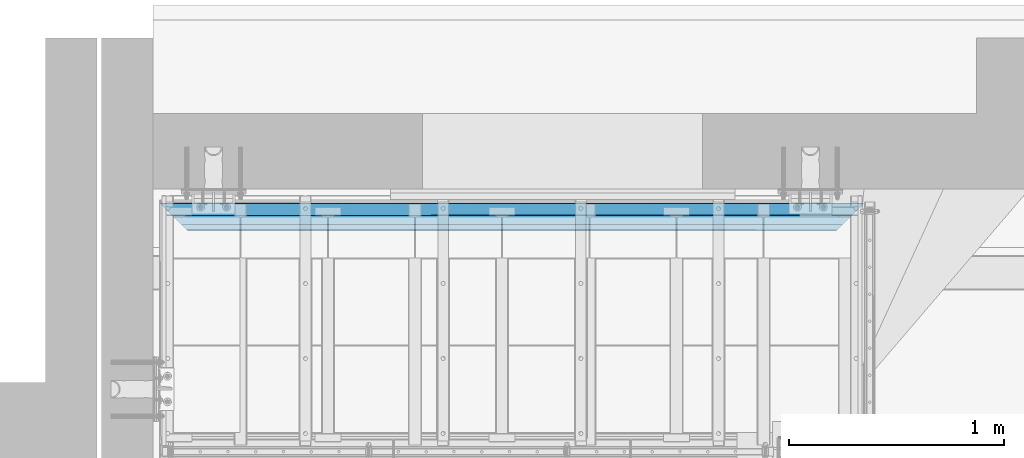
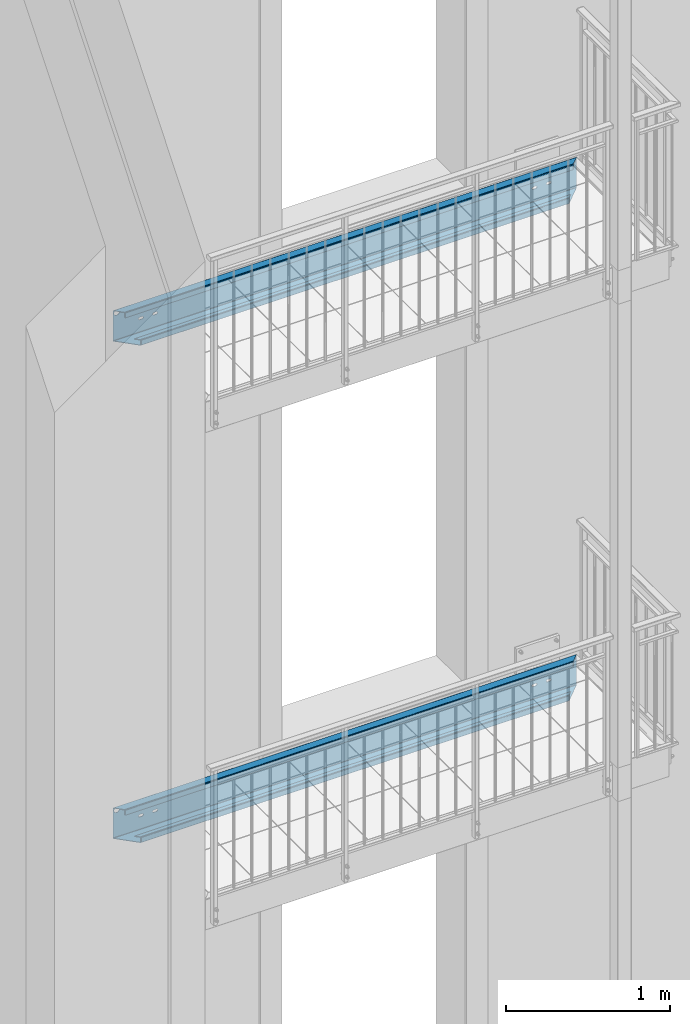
# One storey, part 47 of 162: 2 beams, 24 openings.
"""IFC2X3 building model written with IfcOpenShell, lengths in millimetres."""

import ifcopenshell
import ifcopenshell.guid

model = None  # the IFC model being written
_history = None  # IfcOwnerHistory: only IFC2X3 demands one
_inside = {}  # id of a spatial element -> (the spatial element, [elements in it])
_under = {}  # id of a project, library or spatial element -> (it, [spatial elements below it])
_declared = {}  # id of a project -> (the project, [libraries it declares])
_typed = {}  # id of a type object -> (the type object, [elements of that type])
_made_of = {}  # id of a material, layer set ... -> (it, [elements and type objects made of it])


def new_model(schema):
    """Start an empty IFC model of exactly this schema.

    Asked for "IFC4X3", IfcOpenShell would pick the latest addendum, in which some entities
    have other attributes; the version numbers below select the first issue.
    IFC2X3 requires an IfcOwnerHistory on every rooted entity: one is made here for all.
    """
    global model, _history
    if schema == "IFC4X3":
        model = ifcopenshell.file(schema_version=(4, 3, 0, 0))
    else:
        model = ifcopenshell.file(schema=schema)
    _inside.clear()
    _under.clear()
    _declared.clear()
    _typed.clear()
    _made_of.clear()
    _history = None
    if model.schema == "IFC2X3":
        org = make("IfcOrganization", Name="unknown")
        user = make(
            "IfcPersonAndOrganization",
            ThePerson=make("IfcPerson", FamilyName="unknown"),
            TheOrganization=org,
        )
        app = make(
            "IfcApplication",
            ApplicationDeveloper=org,
            Version="unknown",
            ApplicationFullName="unknown",
            ApplicationIdentifier="unknown",
        )
        _history = make(
            "IfcOwnerHistory",
            OwningUser=user,
            OwningApplication=app,
            ChangeAction="ADDED",
            CreationDate=0,
        )
    return model


def make(cls, **values):
    """One entity of the class cls with the attributes given. An attribute that is None is left unset."""
    return model.create_entity(
        cls, **{name: value for name, value in values.items() if value is not None}
    )


def entity(cls, *values):
    """Any entity or typed value of the class cls, its attributes in the order of the schema. None: left unset."""
    e = model.create_entity(cls)
    for i, value in enumerate(values):
        if value is not None:
            e[i] = value
    return e


def rooted(cls, **values):
    """An entity with a GlobalId (a new one), such as an element, a storey or a relation."""
    return make(cls, GlobalId=ifcopenshell.guid.new(), OwnerHistory=_history, **values)


def si_unit(unit_type, name, prefix=None):
    """IfcSIUnit, for example si_unit("LENGTHUNIT", "METRE", prefix="MILLI")."""
    return make("IfcSIUnit", UnitType=unit_type, Prefix=prefix, Name=name)


def converted_unit(unit_type, name, factor, base, dimensions=None, offset=None):
    """IfcConversionBasedUnit, such as the inch: factor (a typed value) times the base unit."""
    return make(
        "IfcConversionBasedUnit"
        if offset is None
        else "IfcConversionBasedUnitWithOffset",
        ConversionOffset=offset,
        Dimensions=None
        if dimensions is None
        else entity("IfcDimensionalExponents", *dimensions),
        UnitType=unit_type,
        Name=name,
        ConversionFactor=make(
            "IfcMeasureWithUnit", ValueComponent=factor, UnitComponent=base
        ),
    )


def assignment(units):
    """IfcUnitAssignment: the units of a project."""
    return None if units is None else make("IfcUnitAssignment", Units=units)


def point(xyz):
    """IfcCartesianPoint."""
    return None if xyz is None else make("IfcCartesianPoint", Coordinates=xyz)


def direction(xyz):
    """IfcDirection."""
    return None if xyz is None else make("IfcDirection", DirectionRatios=xyz)


def frame(location, z_axis=None, x_axis=None):
    """IfcAxis2Placement3D, a coordinate frame: its origin and axes. An axis left out is left unset."""
    return make(
        "IfcAxis2Placement3D",
        Location=point(location),
        Axis=direction(z_axis),
        RefDirection=direction(x_axis),
    )


def frame_2d(location, x_axis=None):
    """IfcAxis2Placement2D, a coordinate frame in the plane: its origin and x axis."""
    return make(
        "IfcAxis2Placement2D", Location=point(location), RefDirection=direction(x_axis)
    )


def origin():
    """The frame at (0, 0, 0) with its axes left unset."""
    return frame((0.0, 0.0, 0.0))


def origin_with_axes():
    """The frame at (0, 0, 0) with the z axis (0, 0, 1) and the x axis (1, 0, 0) written out."""
    return frame((0.0, 0.0, 0.0), z_axis=(0.0, 0.0, 1.0), x_axis=(1.0, 0.0, 0.0))


def place(relative_to, where):
    """IfcLocalPlacement: puts the frame where relative to a parent placement (None: the world)."""
    return make(
        "IfcLocalPlacement", PlacementRelTo=relative_to, RelativePlacement=where
    )


def context(
    kind, dimensions, precision=None, world=None, true_north=None, identifier=None
):
    """IfcGeometricRepresentationContext, for example the 3D "Model" context."""
    return make(
        "IfcGeometricRepresentationContext",
        ContextIdentifier=identifier,
        ContextType=kind,
        CoordinateSpaceDimension=dimensions,
        Precision=precision,
        WorldCoordinateSystem=world,
        TrueNorth=true_north,
    )


def project(units=None, contexts=None):
    """IfcProject with its units and contexts."""
    return rooted(
        "IfcProject",
        Name="project",
        RepresentationContexts=contexts,
        UnitsInContext=assignment(units),
    )


def spatial(cls, under=None, at=None, **own):
    """A site, building, storey or space (cls), placed at a placement, below another one or the project."""
    s = rooted(cls, ObjectPlacement=at, **own)
    if under is not None:
        _under.setdefault(under.id(), (under, []))[1].append(s)
    return s


def polyline(points):
    """IfcPolyline through the points."""
    return make("IfcPolyline", Points=[point(p) for p in points])


def circle_curve(where, radius):
    """IfcCircle in the frame where."""
    return make("IfcCircle", Position=where, Radius=radius)


def line_curve(start, along, magnitude):
    """IfcLine from a point along a vector."""
    return make(
        "IfcLine",
        Pnt=point(start),
        Dir=make("IfcVector", Orientation=direction(along), Magnitude=magnitude),
    )


def trimmed(basis, trim1, trim2, sense, master):
    """IfcTrimmedCurve: the piece of a basis curve between two trims."""
    return make(
        "IfcTrimmedCurve",
        BasisCurve=basis,
        Trim1=trim1,
        Trim2=trim2,
        SenseAgreement=sense,
        MasterRepresentation=master,
    )


def segment(curve, same_sense, transition):
    """IfcCompositeCurveSegment."""
    return make(
        "IfcCompositeCurveSegment",
        Transition=transition,
        SameSense=same_sense,
        ParentCurve=curve,
    )


def composite_curve(segments, self_intersect=None):
    """IfcCompositeCurve: segments joined end to end."""
    return make("IfcCompositeCurve", Segments=segments, SelfIntersect=self_intersect)


def profile(cls, at=None, kind="AREA", **sizes):
    """A parametric profile (cls). Its sizes go by their IFC names, for example OverallWidth=200.0."""
    return make(cls, ProfileType=kind, Position=at, **sizes)


def circle(**sizes):
    """IfcCircleProfileDef."""
    return profile("IfcCircleProfileDef", **sizes)


def outline(outer, holes=None, kind="AREA"):
    """IfcArbitraryClosedProfileDef: a profile drawn as a closed curve; with holes, ...WithVoids."""
    if holes is None:
        return make("IfcArbitraryClosedProfileDef", ProfileType=kind, OuterCurve=outer)
    return make(
        "IfcArbitraryProfileDefWithVoids",
        ProfileType=kind,
        OuterCurve=outer,
        InnerCurves=holes,
    )


def extrude(swept, where, along, depth):
    """IfcExtrudedAreaSolid: the profile swept, set in the frame where, extruded along a direction by depth."""
    return make(
        "IfcExtrudedAreaSolid",
        SweptArea=swept,
        Position=where,
        ExtrudedDirection=direction(along),
        Depth=depth,
    )


def clip(a, b, op="DIFFERENCE"):
    """IfcBooleanClippingResult: the solid a cut by the half space b."""
    return make(
        "IfcBooleanClippingResult", Operator=op, FirstOperand=a, SecondOperand=b
    )


def halfspace(plane, agree):
    """IfcHalfSpaceSolid: all space on one side of the plane z = 0 of the frame plane."""
    return make(
        "IfcHalfSpaceSolid",
        BaseSurface=make("IfcPlane", Position=plane),
        AgreementFlag=agree,
    )


def shape(context_of_items, identifier, shape_type, items):
    """IfcShapeRepresentation: the items that make up one representation, for example the "Body"."""
    return make(
        "IfcShapeRepresentation",
        ContextOfItems=context_of_items,
        RepresentationIdentifier=identifier,
        RepresentationType=shape_type,
        Items=items,
    )


def material(Name=None, Category=None):
    """IfcMaterial."""
    return make("IfcMaterial", Name=Name, Category=Category)


def made_of(thing, what):
    """Note that an element or type object is made of a material, layer set ...; save() writes the relation."""
    if what is not None:
        _made_of.setdefault(what.id(), (what, []))[1].append(thing)
    return thing


def element(
    cls,
    number,
    at=None,
    inside=None,
    cuts=None,
    type_object=None,
    material=None,
    context=None,
    identifier="Body",
    shape_type=None,
    held_by="IfcProductDefinitionShape",
    body=None,
    shapes=None,
    **own,
):
    """One element of the class cls, such as IfcWall. Its Tag is "e" and its number.

    at: its placement. inside: the storey or other place that contains it. cuts: it is an
    opening in that element (IfcRelVoidsElement). A single representation is given by context,
    identifier, shape_type and body (its items); several are given by shapes. held_by: the class
    of the entity that holds the representations. save() writes the other relations.
    """
    e = rooted(cls, Tag="e%d" % number, ObjectPlacement=at, **own)
    if body is not None:
        shapes = [shape(context, identifier, shape_type, body)]
    if shapes is not None:
        e.Representation = make(held_by, Representations=shapes)
    if inside is not None:
        _inside.setdefault(inside.id(), (inside, []))[1].append(e)
    if cuts is not None:
        rooted(
            "IfcRelVoidsElement", RelatingBuildingElement=cuts, RelatedOpeningElement=e
        )
    if type_object is not None:
        _typed.setdefault(type_object.id(), (type_object, []))[1].append(e)
    return made_of(e, material)


def aggregate(whole, parts):
    """IfcRelAggregates: a whole, such as a stair, and the parts it consists of."""
    return rooted("IfcRelAggregates", RelatingObject=whole, RelatedObjects=parts)


def save(model, path):
    """Write the relations noted so far, then the file.

    IfcRelAggregates (storeys below a building ...), IfcRelContainedInSpatialStructure (elements
    in a storey), IfcRelDefinesByType, IfcRelAssociatesMaterial and IfcRelDeclares: one each for
    every whole, place, type object, material and project.
    """
    for whole, parts in _under.values():
        aggregate(whole, parts)
    for where, things in _inside.values():
        rooted(
            "IfcRelContainedInSpatialStructure",
            RelatedElements=things,
            RelatingStructure=where,
        )
    for kind, things in _typed.values():
        rooted("IfcRelDefinesByType", RelatedObjects=things, RelatingType=kind)
    for what, things in _made_of.values():
        rooted("IfcRelAssociatesMaterial", RelatedObjects=things, RelatingMaterial=what)
    for by, libraries in _declared.values():
        rooted("IfcRelDeclares", RelatingContext=by, RelatedDefinitions=libraries)
    model.write(path)


model = new_model("IFC2X3")

# Units and contexts
model_context = context("Model", 3, precision=1e-09, world=origin_with_axes())
ifc_project = project(units=[si_unit("LENGTHUNIT", "METRE", prefix="MILLI"), si_unit("AREAUNIT", "SQUARE_METRE"), si_unit("VOLUMEUNIT", "CUBIC_METRE"), converted_unit("PLANEANGLEUNIT", "DEGREE", entity("IfcPlaneAngleMeasure", 0.01745329), si_unit("PLANEANGLEUNIT", "RADIAN"), dimensions=[0, 0, 0, 0, 0, 0, 0])], contexts=[model_context])

# Site, building, storey
site_placement = place(None, origin_with_axes())
site = spatial("IfcSite", under=ifc_project, at=site_placement, Name="Hermannstra?e 1a, 60318 Frankfurt", CompositionType="ELEMENT")
building_placement = place(site_placement, origin_with_axes())
building = spatial("IfcBuilding", under=site, at=building_placement, Name="Struktur 1", CompositionType="ELEMENT")
storey_placement = place(building_placement, origin_with_axes())
storey = spatial("IfcBuildingStorey", under=building, at=storey_placement, Name="Default Storey", CompositionType="ELEMENT", Elevation=0.0)

# Beam, openings
ifc_material = material(Name="S355JR")
beam_1_placement = place(None, frame((6200.616602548, 2605.609373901, 7665.0), z_axis=(-1.0, 0.0, 0.0), x_axis=(0.0, -1.0, 0.0)))
beam_1 = element("IfcBeam", 1, at=beam_1_placement, inside=storey, material=ifc_material, Name="-", ObjectType="-", context=model_context, shape_type="Clipping", body=[
    clip(clip(extrude(outline(composite_curve([segment(trimmed(circle_curve(frame_2d((57.999999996, -107.999999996), x_axis=(1.0, 0.0)), 7.000000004), [point((58.0, -115.0))], [point((65.0, -108.0))], True, "CARTESIAN"), True, "CONTINUOUS"), segment(trimmed(line_curve((65.0, -108.0), (0.0, 1.0), 31.0), [point((65.0, -108.0))], [point((65.0, -77.0))], True, "CARTESIAN"), True, "CONTINUOUS"), segment(trimmed(circle_curve(frame_2d((57.999999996, -77.000000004), x_axis=(1.0, 0.0)), 7.000000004), [point((65.0, -77.0))], [point((58.0, -70.0))], True, "CARTESIAN"), True, "CONTINUOUS"), segment(trimmed(line_curve((58.0, -70.0), (-1.0, 0.0), 23.0), [point((58.0, -70.0))], [point((35.0, -70.0))], True, "CARTESIAN"), True, "CONTINUOUS"), segment(trimmed(line_curve((35.0, -70.0), (0.0, -1.0), 4.0), [point((35.0, -70.0))], [point((35.0, -74.0))], True, "CARTESIAN"), True, "CONTINUOUS"), segment(trimmed(line_curve((35.0, -74.0), (1.0, 0.0), 23.0), [point((35.0, -74.0))], [point((58.0, -74.0))], True, "CARTESIAN"), True, "CONTINUOUS"), segment(trimmed(circle_curve(frame_2d((57.999999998, -77.000000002), x_axis=(-1.0, 0.0)), 3.000000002), [point((58.0, -74.0))], [point((61.0, -77.0))], False, "CARTESIAN"), True, "CONTINUOUS"), segment(trimmed(line_curve((61.0, -77.0), (0.0, -1.0), 31.0), [point((61.0, -77.0))], [point((61.0, -108.0))], True, "CARTESIAN"), True, "CONTINUOUS"), segment(trimmed(circle_curve(frame_2d((57.999999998, -107.999999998), x_axis=(-1.0, 0.0)), 3.000000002), [point((61.0, -108.0))], [point((58.0, -111.0))], False, "CARTESIAN"), True, "CONTINUOUS"), segment(trimmed(line_curve((58.0, -111.0), (-1.0, 0.0), 116.0), [point((58.0, -111.0))], [point((-58.0, -111.0))], True, "CARTESIAN"), True, "CONTINUOUS"), segment(trimmed(circle_curve(frame_2d((-57.999999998, -107.999999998), x_axis=(-1.0, 0.0)), 3.000000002), [point((-58.0, -111.0))], [point((-61.0, -108.0))], False, "CARTESIAN"), True, "CONTINUOUS"), segment(trimmed(line_curve((-61.0, -108.0), (0.0, 1.0), 216.0), [point((-61.0, -108.0))], [point((-61.0, 108.0))], True, "CARTESIAN"), True, "CONTINUOUS"), segment(trimmed(circle_curve(frame_2d((-57.999999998, 107.999999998), x_axis=(-1.0, 0.0)), 3.000000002), [point((-61.0, 108.0))], [point((-58.0, 111.0))], False, "CARTESIAN"), True, "CONTINUOUS"), segment(trimmed(line_curve((-58.0, 111.0), (1.0, 0.0), 46.0), [point((-58.0, 111.0))], [point((-12.0, 111.0))], True, "CARTESIAN"), True, "CONTINUOUS"), segment(trimmed(circle_curve(frame_2d((-12.000000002, 107.999999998), x_axis=(-1.0, 0.0)), 3.000000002), [point((-12.0, 111.0))], [point((-9.0, 108.0))], False, "CARTESIAN"), True, "CONTINUOUS"), segment(trimmed(line_curve((-9.0, 108.0), (0.0, -1.0), 33.0), [point((-9.0, 108.0))], [point((-9.0, 75.0))], True, "CARTESIAN"), True, "CONTINUOUS"), segment(trimmed(line_curve((-9.0, 75.0), (1.0, 0.0), 4.0), [point((-9.0, 75.0))], [point((-5.0, 75.0))], True, "CARTESIAN"), True, "CONTINUOUS"), segment(trimmed(line_curve((-5.0, 75.0), (0.0, 1.0), 33.0), [point((-5.0, 75.0))], [point((-5.0, 108.0))], True, "CARTESIAN"), True, "CONTINUOUS"), segment(trimmed(circle_curve(frame_2d((-12.000000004, 107.999999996), x_axis=(1.0, 0.0)), 7.000000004), [point((-5.0, 108.0))], [point((-12.0, 115.0))], True, "CARTESIAN"), True, "CONTINUOUS"), segment(trimmed(line_curve((-12.0, 115.0), (-1.0, 0.0), 46.0), [point((-12.0, 115.0))], [point((-58.0, 115.0))], True, "CARTESIAN"), True, "CONTINUOUS"), segment(trimmed(circle_curve(frame_2d((-57.999999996, 107.999999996), x_axis=(1.0, 0.0)), 7.000000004), [point((-58.0, 115.0))], [point((-65.0, 108.0))], True, "CARTESIAN"), True, "CONTINUOUS"), segment(trimmed(line_curve((-65.0, 108.0), (0.0, -1.0), 216.0), [point((-65.0, 108.0))], [point((-65.0, -108.0))], True, "CARTESIAN"), True, "CONTINUOUS"), segment(trimmed(circle_curve(frame_2d((-57.999999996, -107.999999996), x_axis=(1.0, 0.0)), 7.000000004), [point((-65.0, -108.0))], [point((-58.0, -115.0))], True, "CARTESIAN"), True, "CONTINUOUS"), segment(trimmed(line_curve((-58.0, -115.0), (1.0, 0.0), 116.0), [point((-58.0, -115.0))], [point((58.0, -115.0))], True, "CARTESIAN"), True, "CONTINUOUS")], self_intersect=False)), origin(), (0.0, 0.0, 1.0), 4024.614475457), halfspace(frame((-6.350702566, -7665.0, 3588.656526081), z_axis=(-0.707106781, 0.0, -0.707106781), x_axis=(-0.707106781, 0.0, 0.707106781)), True)), halfspace(frame((4181.958662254, -7665.0, 4624.267314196), z_axis=(-0.707106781, 0.0, 0.707106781), x_axis=(0.707106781, 0.0, 0.707106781)), True)),
])
opening_1_placement = place(beam_1_placement, frame((-66.702560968, 215.1, 374.550741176), z_axis=(0.0, -1.0, 0.0), x_axis=(0.0, 0.0, -1.0)))
element("IfcOpeningElement", 2, at=opening_1_placement, cuts=beam_1, ObjectType="Opening", context=model_context, shape_type="SweptSolid", body=[
    extrude(outline(polyline([(-6.757496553, -8.512020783), (6.757496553, -8.512020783), (6.757496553, 8.512020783), (-6.757496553, 8.512020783), (-6.757496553, -8.512020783)])), origin(), (0.0, 0.0, 1.0), 430.2),
])
opening_2_placement = place(beam_1_placement, frame((-75.214581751, 215.1, 3643.306237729), z_axis=(0.0, 1.0, 0.0), x_axis=(0.0, 0.0, 1.0)))
element("IfcOpeningElement", 3, at=opening_2_placement, cuts=beam_1, ObjectType="Opening", context=model_context, shape_type="SweptSolid", body=[
    extrude(outline(polyline([(0.0, 0.0), (13.514993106, 0.0), (13.514993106, 17.024041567), (0.0, 17.024041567), (0.0, 0.0)])), origin(), (0.0, 0.0, -1.0), 430.2),
])
opening_3_placement = place(beam_1_placement, frame((-60.5, 115.0, 382.310359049), z_axis=(-1.0, 0.0, 0.0), x_axis=(0.0, 0.0, 1.0)))
element("IfcOpeningElement", 4, at=opening_3_placement, cuts=beam_1, ObjectType="Opening", context=model_context, shape_type="SweptSolid", body=[
    extrude(circle(Radius=19.001, at=frame_2d((25.0, -25.0), x_axis=(1.0, 0.0))), origin(), (0.0, 0.0, 1.0), 5.0),
])
opening_4_placement = place(beam_1_placement, frame((-60.5, 90.0, 3636.305116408), z_axis=(1.0, 0.0, 0.0), x_axis=(0.0, 1.0, 0.0)))
element("IfcOpeningElement", 5, at=opening_4_placement, cuts=beam_1, ObjectType="Opening", context=model_context, shape_type="SweptSolid", body=[
    extrude(circle(Radius=19.001, at=frame_2d((0.0, -19.001), x_axis=(1.0, 0.0))), origin(), (0.0, 0.0, -1.0), 5.0),
])
opening_5_placement = place(beam_1_placement, frame((-65.5, 19.999999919, 627.307944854), z_axis=(1.0, 0.0, 0.0), x_axis=(0.0, 0.0, -1.0)))
element("IfcOpeningElement", 6, at=opening_5_placement, cuts=beam_1, ObjectType="Opening", context=model_context, shape_type="SweptSolid", body=[
    extrude(outline(composite_curve([segment(trimmed(line_curve((41.5, 20.999), (1.0, 0.0), 17.0), [point((41.5, 20.999))], [point((58.5, 20.999))], True, "CARTESIAN"), True, "CONTINUOUS"), segment(trimmed(circle_curve(frame_2d((58.5, 30.0), x_axis=(1.0, 0.0)), 9.001), [point((58.5, 20.999))], [point((58.5, 39.001))], True, "CARTESIAN"), True, "CONTINUOUS"), segment(trimmed(line_curve((58.5, 39.001), (-1.0, 0.0), 17.0), [point((58.5, 39.001))], [point((41.5, 39.001))], True, "CARTESIAN"), True, "CONTINUOUS"), segment(trimmed(circle_curve(frame_2d((41.5, 30.0), x_axis=(1.0, 0.0)), 9.001), [point((41.5, 39.001))], [point((41.5, 20.999))], True, "CARTESIAN"), True, "CONTINUOUS")], self_intersect=False)), origin(), (0.0, 0.0, 1.0), 5.0),
])
opening_6_placement = place(beam_1_placement, frame((-65.5, 19.999999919, 627.307944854), z_axis=(1.0, 0.0, 0.0), x_axis=(0.0, 0.0, -1.0)))
element("IfcOpeningElement", 7, at=opening_6_placement, cuts=beam_1, ObjectType="Opening", context=model_context, shape_type="SweptSolid", body=[
    extrude(outline(composite_curve([segment(trimmed(line_curve((-58.5, 20.999), (1.0, 0.0), 17.0), [point((-58.5, 20.999))], [point((-41.5, 20.999))], True, "CARTESIAN"), True, "CONTINUOUS"), segment(trimmed(circle_curve(frame_2d((-41.5, 30.0), x_axis=(1.0, 0.0)), 9.001), [point((-41.5, 20.999))], [point((-41.5, 39.001))], True, "CARTESIAN"), True, "CONTINUOUS"), segment(trimmed(line_curve((-41.5, 39.001), (-1.0, 0.0), 17.0), [point((-41.5, 39.001))], [point((-58.5, 39.001))], True, "CARTESIAN"), True, "CONTINUOUS"), segment(trimmed(circle_curve(frame_2d((-58.5, 30.0), x_axis=(1.0, 0.0)), 9.001), [point((-58.5, 39.001))], [point((-58.5, 20.999))], True, "CARTESIAN"), True, "CONTINUOUS")], self_intersect=False)), origin(), (0.0, 0.0, 1.0), 5.0),
])
opening_7_placement = place(beam_1_placement, frame((-65.5, 19.999999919, 627.307944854), z_axis=(1.0, 0.0, 0.0), x_axis=(0.0, 0.0, -1.0)))
element("IfcOpeningElement", 8, at=opening_7_placement, cuts=beam_1, ObjectType="Opening", context=model_context, shape_type="SweptSolid", body=[
    extrude(outline(composite_curve([segment(trimmed(line_curve((41.5, -39.001), (1.0, 0.0), 17.0), [point((41.5, -39.001))], [point((58.5, -39.001))], True, "CARTESIAN"), True, "CONTINUOUS"), segment(trimmed(circle_curve(frame_2d((58.5, -30.0), x_axis=(1.0, 0.0)), 9.001), [point((58.5, -39.001))], [point((58.5, -20.999))], True, "CARTESIAN"), True, "CONTINUOUS"), segment(trimmed(line_curve((58.5, -20.999), (-1.0, 0.0), 17.0), [point((58.5, -20.999))], [point((41.5, -20.999))], True, "CARTESIAN"), True, "CONTINUOUS"), segment(trimmed(circle_curve(frame_2d((41.5, -30.0), x_axis=(1.0, 0.0)), 9.001), [point((41.5, -20.999))], [point((41.5, -39.001))], True, "CARTESIAN"), True, "CONTINUOUS")], self_intersect=False)), origin(), (0.0, 0.0, 1.0), 5.0),
])
opening_8_placement = place(beam_1_placement, frame((-65.5, 19.999999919, 627.307944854), z_axis=(1.0, 0.0, 0.0), x_axis=(0.0, 0.0, -1.0)))
element("IfcOpeningElement", 9, at=opening_8_placement, cuts=beam_1, ObjectType="Opening", context=model_context, shape_type="SweptSolid", body=[
    extrude(outline(composite_curve([segment(trimmed(line_curve((-58.5, -39.001), (1.0, 0.0), 17.0), [point((-58.5, -39.001))], [point((-41.5, -39.001))], True, "CARTESIAN"), True, "CONTINUOUS"), segment(trimmed(circle_curve(frame_2d((-41.5, -30.0), x_axis=(1.0, 0.0)), 9.001), [point((-41.5, -39.001))], [point((-41.5, -20.999))], True, "CARTESIAN"), True, "CONTINUOUS"), segment(trimmed(line_curve((-41.5, -20.999), (-1.0, 0.0), 17.0), [point((-41.5, -20.999))], [point((-58.5, -20.999))], True, "CARTESIAN"), True, "CONTINUOUS"), segment(trimmed(circle_curve(frame_2d((-58.5, -30.0), x_axis=(1.0, 0.0)), 9.001), [point((-58.5, -20.999))], [point((-58.5, -39.001))], True, "CARTESIAN"), True, "CONTINUOUS")], self_intersect=False)), origin(), (0.0, 0.0, 1.0), 5.0),
])
opening_9_placement = place(beam_1_placement, frame((-65.5, 19.999999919, 3397.307944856), z_axis=(1.0, 0.0, 0.0), x_axis=(0.0, 0.0, -1.0)))
element("IfcOpeningElement", 10, at=opening_9_placement, cuts=beam_1, ObjectType="Opening", context=model_context, shape_type="SweptSolid", body=[
    extrude(outline(composite_curve([segment(trimmed(line_curve((41.5, 20.999), (1.0, 0.0), 17.0), [point((41.5, 20.999))], [point((58.5, 20.999))], True, "CARTESIAN"), True, "CONTINUOUS"), segment(trimmed(circle_curve(frame_2d((58.5, 30.0), x_axis=(1.0, 0.0)), 9.001), [point((58.5, 20.999))], [point((58.5, 39.001))], True, "CARTESIAN"), True, "CONTINUOUS"), segment(trimmed(line_curve((58.5, 39.001), (-1.0, 0.0), 17.0), [point((58.5, 39.001))], [point((41.5, 39.001))], True, "CARTESIAN"), True, "CONTINUOUS"), segment(trimmed(circle_curve(frame_2d((41.5, 30.0), x_axis=(1.0, 0.0)), 9.001), [point((41.5, 39.001))], [point((41.5, 20.999))], True, "CARTESIAN"), True, "CONTINUOUS")], self_intersect=False)), origin(), (0.0, 0.0, 1.0), 5.0),
])
opening_10_placement = place(beam_1_placement, frame((-65.5, 19.999999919, 3397.307944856), z_axis=(1.0, 0.0, 0.0), x_axis=(0.0, 0.0, -1.0)))
element("IfcOpeningElement", 11, at=opening_10_placement, cuts=beam_1, ObjectType="Opening", context=model_context, shape_type="SweptSolid", body=[
    extrude(outline(composite_curve([segment(trimmed(line_curve((-58.5, 20.999), (1.0, 0.0), 17.0), [point((-58.5, 20.999))], [point((-41.5, 20.999))], True, "CARTESIAN"), True, "CONTINUOUS"), segment(trimmed(circle_curve(frame_2d((-41.5, 30.0), x_axis=(1.0, 0.0)), 9.001), [point((-41.5, 20.999))], [point((-41.5, 39.001))], True, "CARTESIAN"), True, "CONTINUOUS"), segment(trimmed(line_curve((-41.5, 39.001), (-1.0, 0.0), 17.0), [point((-41.5, 39.001))], [point((-58.5, 39.001))], True, "CARTESIAN"), True, "CONTINUOUS"), segment(trimmed(circle_curve(frame_2d((-58.5, 30.0), x_axis=(1.0, 0.0)), 9.001), [point((-58.5, 39.001))], [point((-58.5, 20.999))], True, "CARTESIAN"), True, "CONTINUOUS")], self_intersect=False)), origin(), (0.0, 0.0, 1.0), 5.0),
])
opening_11_placement = place(beam_1_placement, frame((-65.5, 19.999999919, 3397.307944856), z_axis=(1.0, 0.0, 0.0), x_axis=(0.0, 0.0, -1.0)))
element("IfcOpeningElement", 12, at=opening_11_placement, cuts=beam_1, ObjectType="Opening", context=model_context, shape_type="SweptSolid", body=[
    extrude(outline(composite_curve([segment(trimmed(line_curve((41.5, -39.001), (1.0, 0.0), 17.0), [point((41.5, -39.001))], [point((58.5, -39.001))], True, "CARTESIAN"), True, "CONTINUOUS"), segment(trimmed(circle_curve(frame_2d((58.5, -30.0), x_axis=(1.0, 0.0)), 9.001), [point((58.5, -39.001))], [point((58.5, -20.999))], True, "CARTESIAN"), True, "CONTINUOUS"), segment(trimmed(line_curve((58.5, -20.999), (-1.0, 0.0), 17.0), [point((58.5, -20.999))], [point((41.5, -20.999))], True, "CARTESIAN"), True, "CONTINUOUS"), segment(trimmed(circle_curve(frame_2d((41.5, -30.0), x_axis=(1.0, 0.0)), 9.001), [point((41.5, -20.999))], [point((41.5, -39.001))], True, "CARTESIAN"), True, "CONTINUOUS")], self_intersect=False)), origin(), (0.0, 0.0, 1.0), 5.0),
])
opening_12_placement = place(beam_1_placement, frame((-65.5, 19.999999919, 3397.307944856), z_axis=(1.0, 0.0, 0.0), x_axis=(0.0, 0.0, -1.0)))
element("IfcOpeningElement", 13, at=opening_12_placement, cuts=beam_1, ObjectType="Opening", context=model_context, shape_type="SweptSolid", body=[
    extrude(outline(composite_curve([segment(trimmed(line_curve((-58.5, -39.001), (1.0, 0.0), 17.0), [point((-58.5, -39.001))], [point((-41.5, -39.001))], True, "CARTESIAN"), True, "CONTINUOUS"), segment(trimmed(circle_curve(frame_2d((-41.5, -30.0), x_axis=(1.0, 0.0)), 9.001), [point((-41.5, -39.001))], [point((-41.5, -20.999))], True, "CARTESIAN"), True, "CONTINUOUS"), segment(trimmed(line_curve((-41.5, -20.999), (-1.0, 0.0), 17.0), [point((-41.5, -20.999))], [point((-58.5, -20.999))], True, "CARTESIAN"), True, "CONTINUOUS"), segment(trimmed(circle_curve(frame_2d((-58.5, -30.0), x_axis=(1.0, 0.0)), 9.001), [point((-58.5, -20.999))], [point((-58.5, -39.001))], True, "CARTESIAN"), True, "CONTINUOUS")], self_intersect=False)), origin(), (0.0, 0.0, 1.0), 5.0),
])

beam_2_placement = place(None, frame((6200.616602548, 2605.609373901, 11364.999), z_axis=(-1.0, 0.0, 0.0), x_axis=(0.0, -1.0, 0.0)))
beam_2 = element("IfcBeam", 14, at=beam_2_placement, inside=storey, material=ifc_material, Name="-", ObjectType="-", context=model_context, shape_type="Clipping", body=[
    clip(clip(extrude(outline(composite_curve([segment(trimmed(circle_curve(frame_2d((57.999999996, -107.999999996), x_axis=(1.0, 0.0)), 7.000000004), [point((58.0, -115.0))], [point((65.0, -108.0))], True, "CARTESIAN"), True, "CONTINUOUS"), segment(trimmed(line_curve((65.0, -108.0), (0.0, 1.0), 31.0), [point((65.0, -108.0))], [point((65.0, -77.0))], True, "CARTESIAN"), True, "CONTINUOUS"), segment(trimmed(circle_curve(frame_2d((57.999999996, -77.000000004), x_axis=(1.0, 0.0)), 7.000000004), [point((65.0, -77.0))], [point((58.0, -70.0))], True, "CARTESIAN"), True, "CONTINUOUS"), segment(trimmed(line_curve((58.0, -70.0), (-1.0, 0.0), 23.0), [point((58.0, -70.0))], [point((35.0, -70.0))], True, "CARTESIAN"), True, "CONTINUOUS"), segment(trimmed(line_curve((35.0, -70.0), (0.0, -1.0), 4.0), [point((35.0, -70.0))], [point((35.0, -74.0))], True, "CARTESIAN"), True, "CONTINUOUS"), segment(trimmed(line_curve((35.0, -74.0), (1.0, 0.0), 23.0), [point((35.0, -74.0))], [point((58.0, -74.0))], True, "CARTESIAN"), True, "CONTINUOUS"), segment(trimmed(circle_curve(frame_2d((57.999999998, -77.000000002), x_axis=(-1.0, 0.0)), 3.000000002), [point((58.0, -74.0))], [point((61.0, -77.0))], False, "CARTESIAN"), True, "CONTINUOUS"), segment(trimmed(line_curve((61.0, -77.0), (0.0, -1.0), 31.0), [point((61.0, -77.0))], [point((61.0, -108.0))], True, "CARTESIAN"), True, "CONTINUOUS"), segment(trimmed(circle_curve(frame_2d((57.999999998, -107.999999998), x_axis=(-1.0, 0.0)), 3.000000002), [point((61.0, -108.0))], [point((58.0, -111.0))], False, "CARTESIAN"), True, "CONTINUOUS"), segment(trimmed(line_curve((58.0, -111.0), (-1.0, 0.0), 116.0), [point((58.0, -111.0))], [point((-58.0, -111.0))], True, "CARTESIAN"), True, "CONTINUOUS"), segment(trimmed(circle_curve(frame_2d((-57.999999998, -107.999999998), x_axis=(-1.0, 0.0)), 3.000000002), [point((-58.0, -111.0))], [point((-61.0, -108.0))], False, "CARTESIAN"), True, "CONTINUOUS"), segment(trimmed(line_curve((-61.0, -108.0), (0.0, 1.0), 216.0), [point((-61.0, -108.0))], [point((-61.0, 108.0))], True, "CARTESIAN"), True, "CONTINUOUS"), segment(trimmed(circle_curve(frame_2d((-57.999999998, 107.999999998), x_axis=(-1.0, 0.0)), 3.000000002), [point((-61.0, 108.0))], [point((-58.0, 111.0))], False, "CARTESIAN"), True, "CONTINUOUS"), segment(trimmed(line_curve((-58.0, 111.0), (1.0, 0.0), 46.0), [point((-58.0, 111.0))], [point((-12.0, 111.0))], True, "CARTESIAN"), True, "CONTINUOUS"), segment(trimmed(circle_curve(frame_2d((-12.000000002, 107.999999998), x_axis=(-1.0, 0.0)), 3.000000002), [point((-12.0, 111.0))], [point((-9.0, 108.0))], False, "CARTESIAN"), True, "CONTINUOUS"), segment(trimmed(line_curve((-9.0, 108.0), (0.0, -1.0), 33.0), [point((-9.0, 108.0))], [point((-9.0, 75.0))], True, "CARTESIAN"), True, "CONTINUOUS"), segment(trimmed(line_curve((-9.0, 75.0), (1.0, 0.0), 4.0), [point((-9.0, 75.0))], [point((-5.0, 75.0))], True, "CARTESIAN"), True, "CONTINUOUS"), segment(trimmed(line_curve((-5.0, 75.0), (0.0, 1.0), 33.0), [point((-5.0, 75.0))], [point((-5.0, 108.0))], True, "CARTESIAN"), True, "CONTINUOUS"), segment(trimmed(circle_curve(frame_2d((-12.000000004, 107.999999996), x_axis=(1.0, 0.0)), 7.000000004), [point((-5.0, 108.0))], [point((-12.0, 115.0))], True, "CARTESIAN"), True, "CONTINUOUS"), segment(trimmed(line_curve((-12.0, 115.0), (-1.0, 0.0), 46.0), [point((-12.0, 115.0))], [point((-58.0, 115.0))], True, "CARTESIAN"), True, "CONTINUOUS"), segment(trimmed(circle_curve(frame_2d((-57.999999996, 107.999999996), x_axis=(1.0, 0.0)), 7.000000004), [point((-58.0, 115.0))], [point((-65.0, 108.0))], True, "CARTESIAN"), True, "CONTINUOUS"), segment(trimmed(line_curve((-65.0, 108.0), (0.0, -1.0), 216.0), [point((-65.0, 108.0))], [point((-65.0, -108.0))], True, "CARTESIAN"), True, "CONTINUOUS"), segment(trimmed(circle_curve(frame_2d((-57.999999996, -107.999999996), x_axis=(1.0, 0.0)), 7.000000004), [point((-65.0, -108.0))], [point((-58.0, -115.0))], True, "CARTESIAN"), True, "CONTINUOUS"), segment(trimmed(line_curve((-58.0, -115.0), (1.0, 0.0), 116.0), [point((-58.0, -115.0))], [point((58.0, -115.0))], True, "CARTESIAN"), True, "CONTINUOUS")], self_intersect=False)), origin(), (0.0, 0.0, 1.0), 4024.614475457), halfspace(frame((-6.350702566, -11364.999, 3588.656526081), z_axis=(-0.707106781, 0.0, -0.707106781), x_axis=(-0.707106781, 0.0, 0.707106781)), True)), halfspace(frame((4181.958662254, -11364.999, 4624.267314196), z_axis=(-0.707106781, 0.0, 0.707106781), x_axis=(0.707106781, 0.0, 0.707106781)), True)),
])
opening_13_placement = place(beam_2_placement, frame((-66.702560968, 215.1, 374.550741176), z_axis=(0.0, -1.0, 0.0), x_axis=(0.0, 0.0, -1.0)))
element("IfcOpeningElement", 15, at=opening_13_placement, cuts=beam_2, ObjectType="Opening", context=model_context, shape_type="SweptSolid", body=[
    extrude(outline(polyline([(-6.757496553, -8.512020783), (6.757496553, -8.512020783), (6.757496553, 8.512020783), (-6.757496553, 8.512020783), (-6.757496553, -8.512020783)])), origin(), (0.0, 0.0, 1.0), 430.2),
])
opening_14_placement = place(beam_2_placement, frame((-75.214581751, 215.1, 3643.306237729), z_axis=(0.0, 1.0, 0.0), x_axis=(0.0, 0.0, 1.0)))
element("IfcOpeningElement", 16, at=opening_14_placement, cuts=beam_2, ObjectType="Opening", context=model_context, shape_type="SweptSolid", body=[
    extrude(outline(polyline([(0.0, 0.0), (13.514993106, 0.0), (13.514993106, 17.024041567), (0.0, 17.024041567), (0.0, 0.0)])), origin(), (0.0, 0.0, -1.0), 430.2),
])
opening_15_placement = place(beam_2_placement, frame((-60.5, 115.0, 382.310359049), z_axis=(-1.0, 0.0, 0.0), x_axis=(0.0, 0.0, 1.0)))
element("IfcOpeningElement", 17, at=opening_15_placement, cuts=beam_2, ObjectType="Opening", context=model_context, shape_type="SweptSolid", body=[
    extrude(circle(Radius=19.001, at=frame_2d((25.0, -25.0), x_axis=(1.0, 0.0))), origin(), (0.0, 0.0, 1.0), 5.0),
])
opening_16_placement = place(beam_2_placement, frame((-60.5, 90.0, 3636.305116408), z_axis=(1.0, 0.0, 0.0), x_axis=(0.0, 1.0, 0.0)))
element("IfcOpeningElement", 18, at=opening_16_placement, cuts=beam_2, ObjectType="Opening", context=model_context, shape_type="SweptSolid", body=[
    extrude(circle(Radius=19.001, at=frame_2d((0.0, -19.001), x_axis=(1.0, 0.0))), origin(), (0.0, 0.0, -1.0), 5.0),
])
opening_17_placement = place(beam_2_placement, frame((-65.5, 19.999999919, 3397.307237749), z_axis=(1.0, 0.0, 0.0), x_axis=(0.0, 0.0, -1.0)))
element("IfcOpeningElement", 19, at=opening_17_placement, cuts=beam_2, ObjectType="Opening", context=model_context, shape_type="SweptSolid", body=[
    extrude(outline(composite_curve([segment(trimmed(line_curve((41.5, 20.999), (1.0, 0.0), 17.0), [point((41.5, 20.999))], [point((58.5, 20.999))], True, "CARTESIAN"), True, "CONTINUOUS"), segment(trimmed(circle_curve(frame_2d((58.5, 30.0), x_axis=(1.0, 0.0)), 9.001), [point((58.5, 20.999))], [point((58.5, 39.001))], True, "CARTESIAN"), True, "CONTINUOUS"), segment(trimmed(line_curve((58.5, 39.001), (-1.0, 0.0), 17.0), [point((58.5, 39.001))], [point((41.5, 39.001))], True, "CARTESIAN"), True, "CONTINUOUS"), segment(trimmed(circle_curve(frame_2d((41.5, 30.0), x_axis=(1.0, 0.0)), 9.001), [point((41.5, 39.001))], [point((41.5, 20.999))], True, "CARTESIAN"), True, "CONTINUOUS")], self_intersect=False)), origin(), (0.0, 0.0, 1.0), 5.0),
])
opening_18_placement = place(beam_2_placement, frame((-65.5, 19.999999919, 3397.307237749), z_axis=(1.0, 0.0, 0.0), x_axis=(0.0, 0.0, -1.0)))
element("IfcOpeningElement", 20, at=opening_18_placement, cuts=beam_2, ObjectType="Opening", context=model_context, shape_type="SweptSolid", body=[
    extrude(outline(composite_curve([segment(trimmed(line_curve((-58.5, 20.999), (1.0, 0.0), 17.0), [point((-58.5, 20.999))], [point((-41.5, 20.999))], True, "CARTESIAN"), True, "CONTINUOUS"), segment(trimmed(circle_curve(frame_2d((-41.5, 30.0), x_axis=(1.0, 0.0)), 9.001), [point((-41.5, 20.999))], [point((-41.5, 39.001))], True, "CARTESIAN"), True, "CONTINUOUS"), segment(trimmed(line_curve((-41.5, 39.001), (-1.0, 0.0), 17.0), [point((-41.5, 39.001))], [point((-58.5, 39.001))], True, "CARTESIAN"), True, "CONTINUOUS"), segment(trimmed(circle_curve(frame_2d((-58.5, 30.0), x_axis=(1.0, 0.0)), 9.001), [point((-58.5, 39.001))], [point((-58.5, 20.999))], True, "CARTESIAN"), True, "CONTINUOUS")], self_intersect=False)), origin(), (0.0, 0.0, 1.0), 5.0),
])
opening_19_placement = place(beam_2_placement, frame((-65.5, 19.999999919, 3397.307237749), z_axis=(1.0, 0.0, 0.0), x_axis=(0.0, 0.0, -1.0)))
element("IfcOpeningElement", 21, at=opening_19_placement, cuts=beam_2, ObjectType="Opening", context=model_context, shape_type="SweptSolid", body=[
    extrude(outline(composite_curve([segment(trimmed(line_curve((41.5, -39.001), (1.0, 0.0), 17.0), [point((41.5, -39.001))], [point((58.5, -39.001))], True, "CARTESIAN"), True, "CONTINUOUS"), segment(trimmed(circle_curve(frame_2d((58.5, -30.0), x_axis=(1.0, 0.0)), 9.001), [point((58.5, -39.001))], [point((58.5, -20.999))], True, "CARTESIAN"), True, "CONTINUOUS"), segment(trimmed(line_curve((58.5, -20.999), (-1.0, 0.0), 17.0), [point((58.5, -20.999))], [point((41.5, -20.999))], True, "CARTESIAN"), True, "CONTINUOUS"), segment(trimmed(circle_curve(frame_2d((41.5, -30.0), x_axis=(1.0, 0.0)), 9.001), [point((41.5, -20.999))], [point((41.5, -39.001))], True, "CARTESIAN"), True, "CONTINUOUS")], self_intersect=False)), origin(), (0.0, 0.0, 1.0), 5.0),
])
opening_20_placement = place(beam_2_placement, frame((-65.5, 19.999999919, 3397.307237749), z_axis=(1.0, 0.0, 0.0), x_axis=(0.0, 0.0, -1.0)))
element("IfcOpeningElement", 22, at=opening_20_placement, cuts=beam_2, ObjectType="Opening", context=model_context, shape_type="SweptSolid", body=[
    extrude(outline(composite_curve([segment(trimmed(line_curve((-58.5, -39.001), (1.0, 0.0), 17.0), [point((-58.5, -39.001))], [point((-41.5, -39.001))], True, "CARTESIAN"), True, "CONTINUOUS"), segment(trimmed(circle_curve(frame_2d((-41.5, -30.0), x_axis=(1.0, 0.0)), 9.001), [point((-41.5, -39.001))], [point((-41.5, -20.999))], True, "CARTESIAN"), True, "CONTINUOUS"), segment(trimmed(line_curve((-41.5, -20.999), (-1.0, 0.0), 17.0), [point((-41.5, -20.999))], [point((-58.5, -20.999))], True, "CARTESIAN"), True, "CONTINUOUS"), segment(trimmed(circle_curve(frame_2d((-58.5, -30.0), x_axis=(1.0, 0.0)), 9.001), [point((-58.5, -20.999))], [point((-58.5, -39.001))], True, "CARTESIAN"), True, "CONTINUOUS")], self_intersect=False)), origin(), (0.0, 0.0, 1.0), 5.0),
])
opening_21_placement = place(beam_2_placement, frame((-65.5, 19.999999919, 627.307237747), z_axis=(1.0, 0.0, 0.0), x_axis=(0.0, 0.0, -1.0)))
element("IfcOpeningElement", 23, at=opening_21_placement, cuts=beam_2, ObjectType="Opening", context=model_context, shape_type="SweptSolid", body=[
    extrude(outline(composite_curve([segment(trimmed(line_curve((41.5, 20.999), (1.0, 0.0), 17.0), [point((41.5, 20.999))], [point((58.5, 20.999))], True, "CARTESIAN"), True, "CONTINUOUS"), segment(trimmed(circle_curve(frame_2d((58.5, 30.0), x_axis=(1.0, 0.0)), 9.001), [point((58.5, 20.999))], [point((58.5, 39.001))], True, "CARTESIAN"), True, "CONTINUOUS"), segment(trimmed(line_curve((58.5, 39.001), (-1.0, 0.0), 17.0), [point((58.5, 39.001))], [point((41.5, 39.001))], True, "CARTESIAN"), True, "CONTINUOUS"), segment(trimmed(circle_curve(frame_2d((41.5, 30.0), x_axis=(1.0, 0.0)), 9.001), [point((41.5, 39.001))], [point((41.5, 20.999))], True, "CARTESIAN"), True, "CONTINUOUS")], self_intersect=False)), origin(), (0.0, 0.0, 1.0), 5.0),
])
opening_22_placement = place(beam_2_placement, frame((-65.5, 19.999999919, 627.307237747), z_axis=(1.0, 0.0, 0.0), x_axis=(0.0, 0.0, -1.0)))
element("IfcOpeningElement", 24, at=opening_22_placement, cuts=beam_2, ObjectType="Opening", context=model_context, shape_type="SweptSolid", body=[
    extrude(outline(composite_curve([segment(trimmed(line_curve((-58.5, 20.999), (1.0, 0.0), 17.0), [point((-58.5, 20.999))], [point((-41.5, 20.999))], True, "CARTESIAN"), True, "CONTINUOUS"), segment(trimmed(circle_curve(frame_2d((-41.5, 30.0), x_axis=(1.0, 0.0)), 9.001), [point((-41.5, 20.999))], [point((-41.5, 39.001))], True, "CARTESIAN"), True, "CONTINUOUS"), segment(trimmed(line_curve((-41.5, 39.001), (-1.0, 0.0), 17.0), [point((-41.5, 39.001))], [point((-58.5, 39.001))], True, "CARTESIAN"), True, "CONTINUOUS"), segment(trimmed(circle_curve(frame_2d((-58.5, 30.0), x_axis=(1.0, 0.0)), 9.001), [point((-58.5, 39.001))], [point((-58.5, 20.999))], True, "CARTESIAN"), True, "CONTINUOUS")], self_intersect=False)), origin(), (0.0, 0.0, 1.0), 5.0),
])
opening_23_placement = place(beam_2_placement, frame((-65.5, 19.999999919, 627.307237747), z_axis=(1.0, 0.0, 0.0), x_axis=(0.0, 0.0, -1.0)))
element("IfcOpeningElement", 25, at=opening_23_placement, cuts=beam_2, ObjectType="Opening", context=model_context, shape_type="SweptSolid", body=[
    extrude(outline(composite_curve([segment(trimmed(line_curve((41.5, -39.001), (1.0, 0.0), 17.0), [point((41.5, -39.001))], [point((58.5, -39.001))], True, "CARTESIAN"), True, "CONTINUOUS"), segment(trimmed(circle_curve(frame_2d((58.5, -30.0), x_axis=(1.0, 0.0)), 9.001), [point((58.5, -39.001))], [point((58.5, -20.999))], True, "CARTESIAN"), True, "CONTINUOUS"), segment(trimmed(line_curve((58.5, -20.999), (-1.0, 0.0), 17.0), [point((58.5, -20.999))], [point((41.5, -20.999))], True, "CARTESIAN"), True, "CONTINUOUS"), segment(trimmed(circle_curve(frame_2d((41.5, -30.0), x_axis=(1.0, 0.0)), 9.001), [point((41.5, -20.999))], [point((41.5, -39.001))], True, "CARTESIAN"), True, "CONTINUOUS")], self_intersect=False)), origin(), (0.0, 0.0, 1.0), 5.0),
])
opening_24_placement = place(beam_2_placement, frame((-65.5, 19.999999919, 627.307237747), z_axis=(1.0, 0.0, 0.0), x_axis=(0.0, 0.0, -1.0)))
element("IfcOpeningElement", 26, at=opening_24_placement, cuts=beam_2, ObjectType="Opening", context=model_context, shape_type="SweptSolid", body=[
    extrude(outline(composite_curve([segment(trimmed(line_curve((-58.5, -39.001), (1.0, 0.0), 17.0), [point((-58.5, -39.001))], [point((-41.5, -39.001))], True, "CARTESIAN"), True, "CONTINUOUS"), segment(trimmed(circle_curve(frame_2d((-41.5, -30.0), x_axis=(1.0, 0.0)), 9.001), [point((-41.5, -39.001))], [point((-41.5, -20.999))], True, "CARTESIAN"), True, "CONTINUOUS"), segment(trimmed(line_curve((-41.5, -20.999), (-1.0, 0.0), 17.0), [point((-41.5, -20.999))], [point((-58.5, -20.999))], True, "CARTESIAN"), True, "CONTINUOUS"), segment(trimmed(circle_curve(frame_2d((-58.5, -30.0), x_axis=(1.0, 0.0)), 9.001), [point((-58.5, -20.999))], [point((-58.5, -39.001))], True, "CARTESIAN"), True, "CONTINUOUS")], self_intersect=False)), origin(), (0.0, 0.0, 1.0), 5.0),
])

save(model, "model.ifc")
